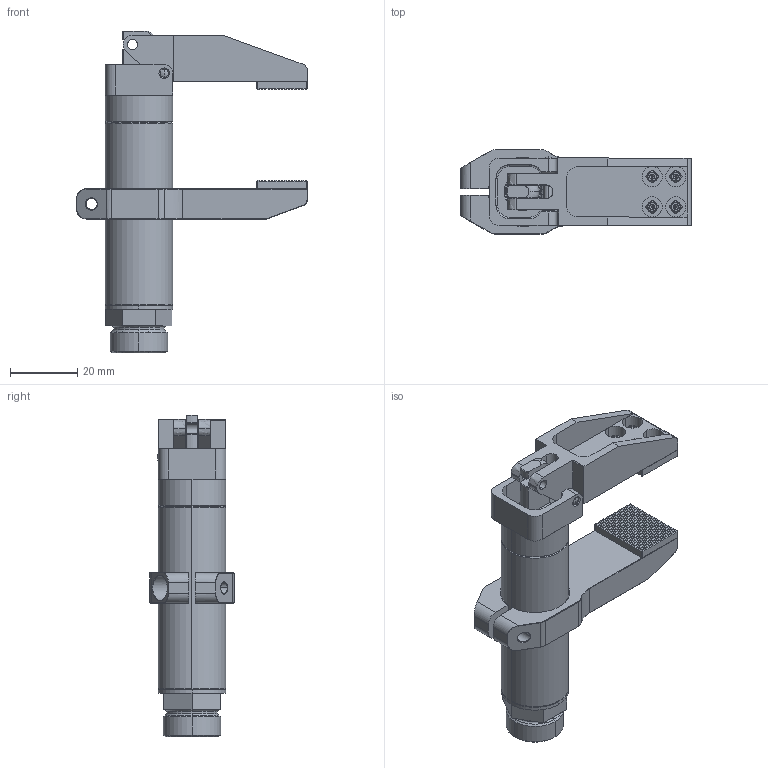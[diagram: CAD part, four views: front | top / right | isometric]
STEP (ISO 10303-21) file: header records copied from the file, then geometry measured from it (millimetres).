
FILE_DESCRIPTION (( 'STEP AP214' ), '1' );
FILE_NAME ('GFR20-95GL.STEP', '2019-11-13T02:51:56', ( '微软用户' ), ( '微软中国' ), 'SwSTEP 2.0', 'SolidWorks 2016', '' );
FILE_SCHEMA (( 'AUTOMOTIVE_DESIGN' ));
Length unit declared in the file: millimetre
Products named in the file (1): GFR20-95GL
Bounding box: 68.5 x 25 x 95.5 mm (x, y, z)
Volume: 32872.5 mm3; surface area: 27014.9 mm2
Topology: 11 solids, 11 shells, 4012 faces, 8676 edges, 4707 vertices
Faces by surface type: plane 3306, cylinder 361, torus 197, bspline 86, cone 58, sphere 4
Entity records: 151140 total; most frequent: CARTESIAN_POINT 22251, ORIENTED_EDGE 17352, DIRECTION 17157, EDGE_CURVE 8676, VECTOR 7037, LINE 7037, AXIS2_PLACEMENT_3D 5060, VERTEX_POINT 4707
